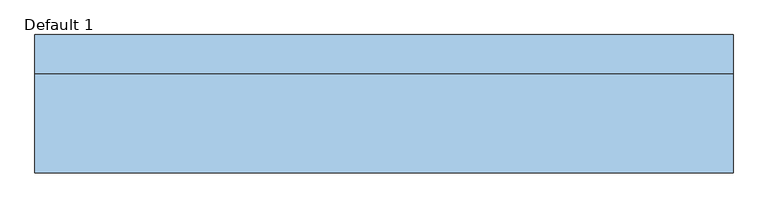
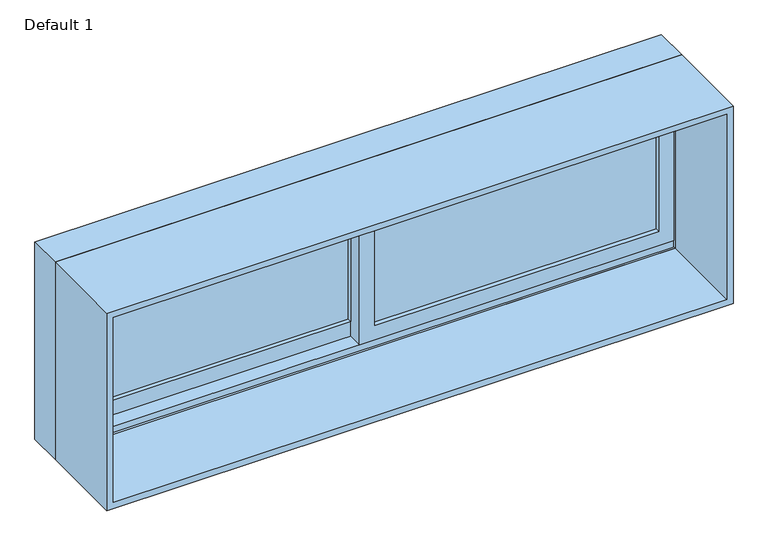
"""IFC4 building model written with IfcOpenShell, lengths in millimetres: window geometry, Planitar-Sliding-Double : Default 1."""

import ifcopenshell
import ifcopenshell.guid

model = None  # the IFC model being written
_history = None  # IfcOwnerHistory: only IFC2X3 demands one
_inside = {}  # id of a spatial element -> (the spatial element, [elements in it])
_under = {}  # id of a project, library or spatial element -> (it, [spatial elements below it])
_declared = {}  # id of a project -> (the project, [libraries it declares])
_typed = {}  # id of a type object -> (the type object, [elements of that type])
_made_of = {}  # id of a material, layer set ... -> (it, [elements and type objects made of it])


def new_model(schema):
    """Start an empty IFC model of exactly this schema.

    Asked for "IFC4X3", IfcOpenShell would pick the latest addendum, in which some entities
    have other attributes; the version numbers below select the first issue.
    IFC2X3 requires an IfcOwnerHistory on every rooted entity: one is made here for all.
    """
    global model, _history
    if schema == "IFC4X3":
        model = ifcopenshell.file(schema_version=(4, 3, 0, 0))
    else:
        model = ifcopenshell.file(schema=schema)
    _inside.clear()
    _under.clear()
    _declared.clear()
    _typed.clear()
    _made_of.clear()
    _history = None
    if model.schema == "IFC2X3":
        org = make("IfcOrganization", Name="unknown")
        user = make(
            "IfcPersonAndOrganization",
            ThePerson=make("IfcPerson", FamilyName="unknown"),
            TheOrganization=org,
        )
        app = make(
            "IfcApplication",
            ApplicationDeveloper=org,
            Version="unknown",
            ApplicationFullName="unknown",
            ApplicationIdentifier="unknown",
        )
        _history = make(
            "IfcOwnerHistory",
            OwningUser=user,
            OwningApplication=app,
            ChangeAction="ADDED",
            CreationDate=0,
        )
    return model


def make(cls, **values):
    """One entity of the class cls with the attributes given. An attribute that is None is left unset."""
    return model.create_entity(
        cls, **{name: value for name, value in values.items() if value is not None}
    )


def rooted(cls, **values):
    """An entity with a GlobalId (a new one), such as an element, a storey or a relation."""
    return make(cls, GlobalId=ifcopenshell.guid.new(), OwnerHistory=_history, **values)


def si_unit(unit_type, name, prefix=None):
    """IfcSIUnit, for example si_unit("LENGTHUNIT", "METRE", prefix="MILLI")."""
    return make("IfcSIUnit", UnitType=unit_type, Prefix=prefix, Name=name)


def assignment(units):
    """IfcUnitAssignment: the units of a project."""
    return None if units is None else make("IfcUnitAssignment", Units=units)


def point(xyz):
    """IfcCartesianPoint."""
    return None if xyz is None else make("IfcCartesianPoint", Coordinates=xyz)


def direction(xyz):
    """IfcDirection."""
    return None if xyz is None else make("IfcDirection", DirectionRatios=xyz)


def frame(location, z_axis=None, x_axis=None):
    """IfcAxis2Placement3D, a coordinate frame: its origin and axes. An axis left out is left unset."""
    return make(
        "IfcAxis2Placement3D",
        Location=point(location),
        Axis=direction(z_axis),
        RefDirection=direction(x_axis),
    )


def origin():
    """The frame at (0, 0, 0) with its axes left unset."""
    return frame((0.0, 0.0, 0.0))


def place(relative_to, where):
    """IfcLocalPlacement: puts the frame where relative to a parent placement (None: the world)."""
    return make(
        "IfcLocalPlacement", PlacementRelTo=relative_to, RelativePlacement=where
    )


def context(
    kind, dimensions, precision=None, world=None, true_north=None, identifier=None
):
    """IfcGeometricRepresentationContext, for example the 3D "Model" context."""
    return make(
        "IfcGeometricRepresentationContext",
        ContextIdentifier=identifier,
        ContextType=kind,
        CoordinateSpaceDimension=dimensions,
        Precision=precision,
        WorldCoordinateSystem=world,
        TrueNorth=true_north,
    )


def project(units=None, contexts=None):
    """IfcProject with its units and contexts."""
    return rooted(
        "IfcProject",
        Name="project",
        RepresentationContexts=contexts,
        UnitsInContext=assignment(units),
    )


def spatial(cls, under=None, at=None, **own):
    """A site, building, storey or space (cls), placed at a placement, below another one or the project."""
    s = rooted(cls, ObjectPlacement=at, **own)
    if under is not None:
        _under.setdefault(under.id(), (under, []))[1].append(s)
    return s


def polyline(points):
    """IfcPolyline through the points."""
    return make("IfcPolyline", Points=[point(p) for p in points])


def outline(outer, holes=None, kind="AREA"):
    """IfcArbitraryClosedProfileDef: a profile drawn as a closed curve; with holes, ...WithVoids."""
    if holes is None:
        return make("IfcArbitraryClosedProfileDef", ProfileType=kind, OuterCurve=outer)
    return make(
        "IfcArbitraryProfileDefWithVoids",
        ProfileType=kind,
        OuterCurve=outer,
        InnerCurves=holes,
    )


def extrude(swept, where, along, depth):
    """IfcExtrudedAreaSolid: the profile swept, set in the frame where, extruded along a direction by depth."""
    return make(
        "IfcExtrudedAreaSolid",
        SweptArea=swept,
        Position=where,
        ExtrudedDirection=direction(along),
        Depth=depth,
    )


def faces_of(points, faces, orient=None, outer=None):
    """IfcFace entities. A face is a list of loops; a loop is a list of indices into points, from 0.

    orient and outer hold one flag for each loop. By default every Orientation is true, the
    first loop of a face is its IfcFaceOuterBound and the others are IfcFaceBound.
    """
    made = []
    for i, loops in enumerate(faces):
        bounds = []
        for j, loop in enumerate(loops):
            is_outer = j == 0 if outer is None else outer[i][j]
            bounds.append(
                make(
                    "IfcFaceOuterBound" if is_outer else "IfcFaceBound",
                    Bound=make("IfcPolyLoop", Polygon=[points[k] for k in loop]),
                    Orientation=True if orient is None else orient[i][j],
                )
            )
        made.append(make("IfcFace", Bounds=bounds))
    return made


def faceted_brep(points, faces, orient=None, outer=None, voids=None):
    """IfcFacetedBrep: a solid bounded by flat faces; with voids (closed shells), ...WithVoids."""
    shared = [point(p) for p in points]
    hull = make("IfcClosedShell", CfsFaces=faces_of(shared, faces, orient, outer))
    if voids is None:
        return make("IfcFacetedBrep", Outer=hull)
    return make(
        "IfcFacetedBrepWithVoids",
        Outer=hull,
        Voids=[
            make(cls, CfsFaces=faces_of(shared, fs, o, b)) for cls, fs, o, b in voids
        ],
    )


def shape(context_of_items, identifier, shape_type, items):
    """IfcShapeRepresentation: the items that make up one representation, for example the "Body"."""
    return make(
        "IfcShapeRepresentation",
        ContextOfItems=context_of_items,
        RepresentationIdentifier=identifier,
        RepresentationType=shape_type,
        Items=items,
    )


def source(mapping_origin, context_of_items, identifier, shape_type, items):
    """IfcRepresentationMap: a shape defined once, which mapped items show again and again."""
    return make(
        "IfcRepresentationMap",
        MappingOrigin=mapping_origin,
        MappedRepresentation=shape(context_of_items, identifier, shape_type, items),
    )


def transform(
    local_origin,
    x_axis=None,
    y_axis=None,
    z_axis=None,
    scale=None,
    scale2=None,
    scale3=None,
    uniform=True,
):
    """IfcCartesianTransformationOperator3D, or its non-uniform kind. x_axis, y_axis, z_axis: its Axis1, 2, 3."""
    if uniform:
        return make(
            "IfcCartesianTransformationOperator3D",
            Axis1=direction(x_axis),
            Axis2=direction(y_axis),
            LocalOrigin=point(local_origin),
            Scale=scale,
            Axis3=direction(z_axis),
        )
    return make(
        "IfcCartesianTransformationOperator3DnonUniform",
        Axis1=direction(x_axis),
        Axis2=direction(y_axis),
        LocalOrigin=point(local_origin),
        Scale=scale,
        Axis3=direction(z_axis),
        Scale2=scale2,
        Scale3=scale3,
    )


def mapped(mapping_source, mapping_target):
    """IfcMappedItem: shows the shape of a source again, moved by a transform."""
    return make(
        "IfcMappedItem", MappingSource=mapping_source, MappingTarget=mapping_target
    )


def made_of(thing, what):
    """Note that an element or type object is made of a material, layer set ...; save() writes the relation."""
    if what is not None:
        _made_of.setdefault(what.id(), (what, []))[1].append(thing)
    return thing


def element(
    cls,
    number,
    at=None,
    inside=None,
    cuts=None,
    type_object=None,
    material=None,
    context=None,
    identifier="Body",
    shape_type=None,
    held_by="IfcProductDefinitionShape",
    body=None,
    shapes=None,
    **own,
):
    """One element of the class cls, such as IfcWall. Its Tag is "e" and its number.

    at: its placement. inside: the storey or other place that contains it. cuts: it is an
    opening in that element (IfcRelVoidsElement). A single representation is given by context,
    identifier, shape_type and body (its items); several are given by shapes. held_by: the class
    of the entity that holds the representations. save() writes the other relations.
    """
    e = rooted(cls, Tag="e%d" % number, ObjectPlacement=at, **own)
    if body is not None:
        shapes = [shape(context, identifier, shape_type, body)]
    if shapes is not None:
        e.Representation = make(held_by, Representations=shapes)
    if inside is not None:
        _inside.setdefault(inside.id(), (inside, []))[1].append(e)
    if cuts is not None:
        rooted(
            "IfcRelVoidsElement", RelatingBuildingElement=cuts, RelatedOpeningElement=e
        )
    if type_object is not None:
        _typed.setdefault(type_object.id(), (type_object, []))[1].append(e)
    return made_of(e, material)


def aggregate(whole, parts):
    """IfcRelAggregates: a whole, such as a stair, and the parts it consists of."""
    return rooted("IfcRelAggregates", RelatingObject=whole, RelatedObjects=parts)


def save(model, path):
    """Write the relations noted so far, then the file.

    IfcRelAggregates (storeys below a building ...), IfcRelContainedInSpatialStructure (elements
    in a storey), IfcRelDefinesByType, IfcRelAssociatesMaterial and IfcRelDeclares: one each for
    every whole, place, type object, material and project.
    """
    for whole, parts in _under.values():
        aggregate(whole, parts)
    for where, things in _inside.values():
        rooted(
            "IfcRelContainedInSpatialStructure",
            RelatedElements=things,
            RelatingStructure=where,
        )
    for kind, things in _typed.values():
        rooted("IfcRelDefinesByType", RelatedObjects=things, RelatingType=kind)
    for what, things in _made_of.values():
        rooted("IfcRelAssociatesMaterial", RelatedObjects=things, RelatingMaterial=what)
    for by, libraries in _declared.values():
        rooted("IfcRelDeclares", RelatingContext=by, RelatedDefinitions=libraries)
    model.write(path)


def default_1_34086e57(model_context):
    return source(origin(), model_context, "Body", "SolidModel", [
        extrude(outline(polyline([(933.45, -895.35), (933.45, 22.225), (1504.95, 22.225), (1504.95, -895.35), (933.45, -895.35)]), holes=[polyline([(1460.5, -22.225), (996.95, -22.225), (996.95, -850.9), (1460.5, -850.9), (1460.5, -22.225)])]), frame((0.0, 135.89, 0.0), z_axis=(0.0, 1.0, 0.0), x_axis=(0.0, 0.0, 1.0)), (0.0, 0.0, 1.0), 44.45),
        extrude(outline(polyline([(952.5, 895.35), (1504.95, 895.35), (1504.95, -22.225), (952.5, -22.225), (952.5, 895.35)]), holes=[polyline([(996.95, 22.225), (1460.5, 22.225), (1460.5, 850.9), (996.95, 850.9), (996.95, 22.225)])]), frame((0.0, 91.44, 0.0), z_axis=(0.0, 1.0, 0.0), x_axis=(0.0, 0.0, 1.0)), (0.0, 0.0, 1.0), 44.45),
        faceted_brep([(-914.4, 85.09, 914.4), (-914.4, 186.69, 914.4), (914.4, 186.69, 914.4), (914.4, 85.09, 914.4), (-873.4778905, 186.69, 1483.0778905), (-873.4778905, 180.34, 1483.0778905), (-873.4778905, 180.34, 933.45), (-873.4778905, 186.69, 933.45), (873.4778905, 180.34, 1483.0778905), (873.4778905, 180.34, 933.45), (895.35, 180.34, 933.45), (895.35, 180.34, 1504.95), (-895.35, 180.34, 1504.95), (-895.35, 180.34, 933.45), (-895.35, 85.09, 1504.95), (-895.35, 85.09, 933.45), (-895.35, 91.44, 933.45), (-895.35, 91.44, 952.5), (-895.35, 135.89, 952.5), (-895.35, 135.89, 933.45), (914.4, 85.09, 1524.0), (-914.4, 85.09, 1524.0), (895.35, 85.09, 1504.95), (895.35, 85.09, 933.45), (-914.4, 186.69, 1524.0), (914.4, 186.69, 1524.0), (873.4778905, 186.69, 933.45), (873.4778905, 186.69, 1483.0778905), (895.35, 135.89, 933.45), (895.35, 135.89, 952.5), (895.35, 91.44, 952.5), (895.35, 91.44, 933.45)], [[[0, 1, 2, 3]], [[4, 5, 6, 7]], [[5, 8, 9, 10, 11, 12, 13, 6]], [[12, 14, 15, 16, 17, 18, 19, 13]], [[0, 3, 20, 21], [22, 23, 15, 14]], [[24, 1, 0, 21]], [[2, 1, 24, 25], [4, 7, 26, 27]], [[5, 4, 27, 8]], [[12, 11, 22, 14]], [[21, 20, 25, 24]], [[8, 27, 26, 9]], [[22, 11, 10, 28, 29, 30, 31, 23]], [[20, 3, 2, 25]], [[26, 7, 6, 13, 19, 28, 10, 9]], [[28, 19, 18, 29]], [[29, 18, 17, 30]], [[30, 17, 16, 31]], [[15, 23, 31, 16]]]),
        extrude(outline(polyline([(1524.0, -914.4), (914.4, -914.4), (914.4, 914.4), (1524.0, 914.4), (1524.0, -914.4)]), holes=[polyline([(1504.95, 895.35), (933.45, 895.35), (933.45, -895.35), (1504.95, -895.35), (1504.95, 895.35)])]), frame((0.0, -175.26, 0.0), z_axis=(0.0, 1.0, 0.0), x_axis=(0.0, 0.0, 1.0)), (0.0, 0.0, 1.0), 260.35),
        extrude(outline(polyline([(850.9, 123.19), (850.9, 116.84), (22.225, 116.84), (22.225, 123.19), (850.9, 123.19)])), frame((0.0, 0.0, 996.95), z_axis=(0.0, 0.0, 1.0), x_axis=(1.0, 0.0, 0.0)), (0.0, 0.0, 1.0), 463.55),
        extrude(outline(polyline([(850.9, 110.49), (850.9, 104.14), (22.225, 104.14), (22.225, 110.49), (850.9, 110.49)])), frame((0.0, 0.0, 996.95), z_axis=(0.0, 0.0, 1.0), x_axis=(1.0, 0.0, 0.0)), (0.0, 0.0, 1.0), 463.55),
        extrude(outline(polyline([(-22.225, 167.64), (-22.225, 161.29), (-850.9, 161.29), (-850.9, 167.64), (-22.225, 167.64)])), frame((0.0, 0.0, 996.95), z_axis=(0.0, 0.0, 1.0), x_axis=(1.0, 0.0, 0.0)), (0.0, 0.0, 1.0), 463.55),
        extrude(outline(polyline([(-22.225, 154.94), (-22.225, 148.59), (-850.9, 148.59), (-850.9, 154.94), (-22.225, 154.94)])), frame((0.0, 0.0, 996.95), z_axis=(0.0, 0.0, 1.0), x_axis=(1.0, 0.0, 0.0)), (0.0, 0.0, 1.0), 463.55),
    ])


if __name__ == "__main__":
    model = new_model("IFC4")
    model_context = context("Model", 3, world=origin())
    ifc_project = project(units=[si_unit("LENGTHUNIT", "METRE", prefix="MILLI")], contexts=[model_context])
    site = spatial("IfcSite", under=ifc_project)
    building = spatial("IfcBuilding", under=site)
    placement = place(None, origin())
    default_1_shape = default_1_34086e57(model_context)
    element("IfcWindow", 1, ObjectType="Planitar-Sliding-Double : Default 1", at=placement, inside=building, context=model_context, shape_type="MappedRepresentation", body=[
        mapped(default_1_shape, transform((0.0, 0.0, 0.0), x_axis=(1.0, 0.0, 0.0), y_axis=(0.0, 1.0, 0.0), z_axis=(0.0, 0.0, 1.0))),
    ])
    save(model, "model.ifc")
